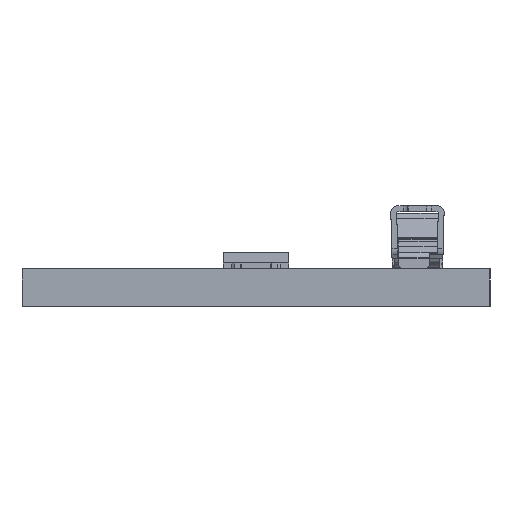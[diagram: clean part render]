
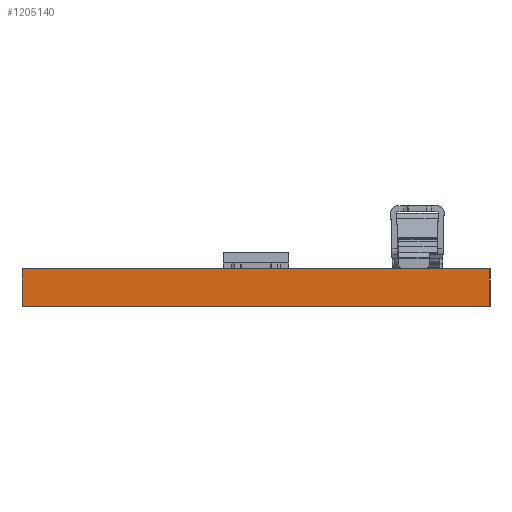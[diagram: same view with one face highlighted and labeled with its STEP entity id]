
A CAD part, left-side view. The second image highlights one B-rep face of the part: STEP entity #1205140.
In plain terms, the highlighted planar face has unit normal (-1, 0, 0).
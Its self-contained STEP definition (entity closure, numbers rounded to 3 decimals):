
#1189130=CARTESIAN_POINT('',(0.,0.,0.));
#1189140=DIRECTION('',(0.,1.,0.));
#1189150=VECTOR('',#1189140,0.039);
#1189160=LINE('',#1189130,#1189150);
#1189170=CARTESIAN_POINT('',(0.,0.,0.));
#1189180=VERTEX_POINT('',#1189170);
#1189190=CARTESIAN_POINT('',(0.,20.,0.));
#1189200=VERTEX_POINT('',#1189190);
#1189210=EDGE_CURVE('',#1189180,#1189200,#1189160,.T.);
#1194860=CARTESIAN_POINT('',(0.,0.,-1.6));
#1194870=VERTEX_POINT('',#1194860);
#1196340=CARTESIAN_POINT('',(0.,20.,-1.6));
#1196350=VERTEX_POINT('',#1196340);
#1196380=CARTESIAN_POINT('',(0.,0.,-1.6));
#1196390=DIRECTION('',(0.,1.,0.));
#1196400=VECTOR('',#1196390,0.039);
#1196410=LINE('',#1196380,#1196400);
#1196420=EDGE_CURVE('',#1194870,#1196350,#1196410,.T.);
#1200550=CARTESIAN_POINT('',(0.,0.,0.));
#1200560=DIRECTION('',(0.,0.,-1.));
#1200570=VECTOR('',#1200560,1.);
#1200580=LINE('',#1200550,#1200570);
#1200590=EDGE_CURVE('',#1189180,#1194870,#1200580,.T.);
#1204850=CARTESIAN_POINT('',(0.,20.,0.));
#1204860=DIRECTION('',(0.,0.,-1.));
#1204870=VECTOR('',#1204860,1.);
#1204880=LINE('',#1204850,#1204870);
#1204890=EDGE_CURVE('',#1189200,#1196350,#1204880,.T.);
#1205030=CARTESIAN_POINT('',(0.,0.,0.));
#1205040=DIRECTION('',(1.,0.,0.));
#1205050=DIRECTION('',(0.,-1.,0.));
#1205060=AXIS2_PLACEMENT_3D('',#1205030,#1205040,#1205050);
#1205070=PLANE('',#1205060);
#1205080=ORIENTED_EDGE('',*,*,#1189210,.T.);
#1205090=ORIENTED_EDGE('',*,*,#1200590,.F.);
#1205100=ORIENTED_EDGE('',*,*,#1196420,.F.);
#1205110=ORIENTED_EDGE('',*,*,#1204890,.T.);
#1205120=EDGE_LOOP('',(#1205110,#1205100,#1205090,#1205080));
#1205130=FACE_OUTER_BOUND('',#1205120,.T.);
#1205140=ADVANCED_FACE('',(#1205130),#1205070,.F.);
